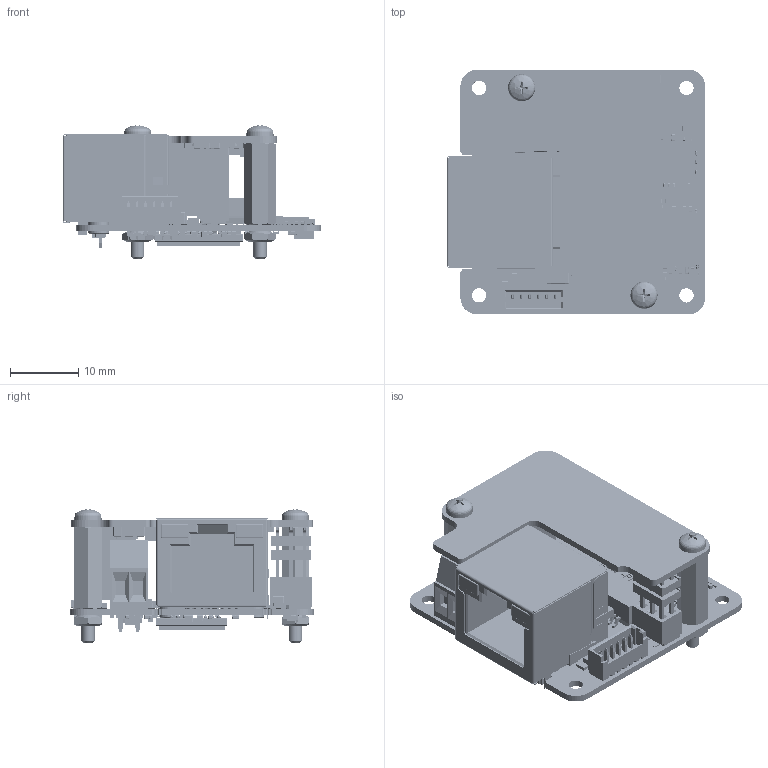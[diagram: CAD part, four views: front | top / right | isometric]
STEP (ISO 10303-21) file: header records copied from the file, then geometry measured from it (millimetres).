
FILE_DESCRIPTION(/* description */ (''),/* implementation_level */ '2;1');
FILE_NAME(/* name */ 'KSM_306-23-14-00-00_ZB PlatinenKam_GigE-4SB_AR2020_PoE add-on.stp',/* time_stamp */ '2025-06-06T00:53:37+02:00',/* author */ ('khw'),/* organization */ ('TIS/ Germany'),/* preprocessor_version */ 'ST-DEVELOPER v20',/* originating_system */ 'Autodesk Inventor 2025',/* authorisation */ '520025 mm^3');
FILE_SCHEMA (('AUTOMOTIVE_DESIGN { 1 0 10303 214 3 1 1 }'));
Products named in the file (6): KSM_306-23-14-00-00_ZB PlatinenKam_GigE-4SB_AR2020_PoE add-on; Sensorboard_4G-JB0_0100_GigE4-SB_AR2020_03-06-25; PoE add-on-Board; IA-Distanzbolzen M2x1; Linsenschraube M2x4; Sechskanntmutter M2
Assembly tree (8 placements, depth 2):
  KSM_306-23-14-00-00_ZB PlatinenKam_GigE-4SB_AR2020_PoE add-on
    Sensorboard_4G-JB0_0100_GigE4-SB_AR2020_03-06-25
    PoE add-on-Board
    IA-Distanzbolzen M2x1  x2
    Linsenschraube M2x4  x2
    Sechskanntmutter M2  x2
Bounding box: 37.99 x 36.01 x 19.59 mm (x, y, z)
Volume: 6987.2 mm3; surface area: 11000.5 mm2
Topology: 18 solids, 18 shells, 12871 faces, 30614 edges, 16580 vertices
Faces by surface type: plane 5131, cylinder 5094, sphere 1320, torus 1230, cone 62, bspline 34
Full cylindrical faces by diameter (mm): 0.3 x1, 0.5 x6, 0.739 x1, 1.05 x2, 1.2 x2, 1.567 x4, 1.783 x2, 2 x4, 2.032 x2, 2.1 x6, 2.3 x2
Entity records: 365288 total; most frequent: DIRECTION 64994, CARTESIAN_POINT 59756, ORIENTED_EDGE 58104, EDGE_CURVE 29052, AXIS2_PLACEMENT_3D 23277, LINE 18440, VECTOR 18440, VERTEX_POINT 16475
